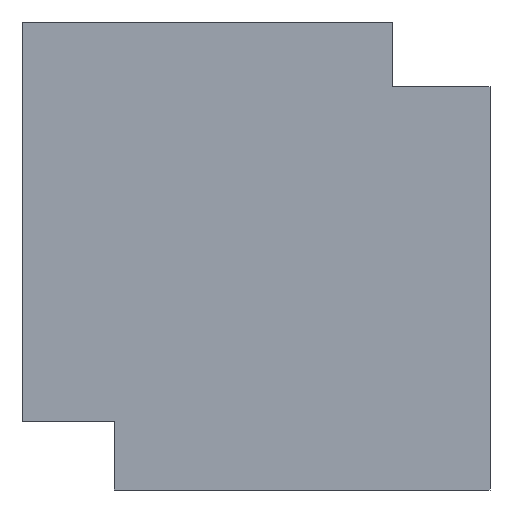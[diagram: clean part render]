
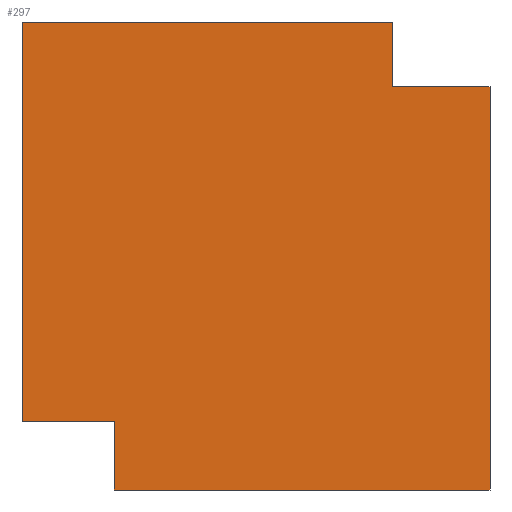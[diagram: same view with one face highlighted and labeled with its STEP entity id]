
A CAD part, front view. The second image highlights one B-rep face of the part: STEP entity #297.
In plain terms, the highlighted planar face has unit normal (0, -1, 0).
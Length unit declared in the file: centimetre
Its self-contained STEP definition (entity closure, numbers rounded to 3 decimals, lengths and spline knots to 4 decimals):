
#8 = DIRECTION ( 'NONE',  ( -1., 0., 0. ) ) ;
#19 = EDGE_CURVE ( 'NONE', #546, #117, #864, .T. ) ;
#20 = EDGE_CURVE ( 'NONE', #865, #655, #575, .T. ) ;
#28 = CARTESIAN_POINT ( 'NONE',  ( 196.6061, 0., 147.1455 ) ) ;
#40 = VERTEX_POINT ( 'NONE', #775 ) ;
#59 = DIRECTION ( 'NONE',  ( 0., 0., -1. ) ) ;
#74 = VERTEX_POINT ( 'NONE', #28 ) ;
#76 = CARTESIAN_POINT ( 'NONE',  ( 0., 0., 1000. ) ) ;
#86 = DIRECTION ( 'NONE',  ( 0., 1., 0. ) ) ;
#94 = VECTOR ( 'NONE', #755, 100. ) ;
#104 = CARTESIAN_POINT ( 'NONE',  ( 0., 0., 0. ) ) ;
#117 = VERTEX_POINT ( 'NONE', #991 ) ;
#134 = DIRECTION ( 'NONE',  ( 1., 0., 0. ) ) ;
#136 = VECTOR ( 'NONE', #852, 100. ) ;
#159 = CARTESIAN_POINT ( 'NONE',  ( 791.5606, 0., 861.3351 ) ) ;
#177 = CARTESIAN_POINT ( 'NONE',  ( 0., 0., 147.1455 ) ) ;
#178 = AXIS2_PLACEMENT_3D ( 'NONE', #76, #86, #1032 ) ;
#205 = VECTOR ( 'NONE', #531, 100. ) ;
#219 = CARTESIAN_POINT ( 'NONE',  ( 0., 0., 1000. ) ) ;
#227 = EDGE_CURVE ( 'NONE', #117, #40, #765, .T. ) ;
#236 = DIRECTION ( 'NONE',  ( 0., 0., -1. ) ) ;
#253 = EDGE_CURVE ( 'NONE', #275, #74, #587, .T. ) ;
#262 = FACE_OUTER_BOUND ( 'NONE', #666, .T. ) ;
#275 = VERTEX_POINT ( 'NONE', #668 ) ;
#297 = ADVANCED_FACE ( 'NONE', ( #262 ), #944, .F. ) ;
#302 = LINE ( 'NONE', #104, #205 ) ;
#307 = VECTOR ( 'NONE', #8, 100. ) ;
#334 = CARTESIAN_POINT ( 'NONE',  ( 196.6061, 0., 0. ) ) ;
#392 = EDGE_CURVE ( 'NONE', #74, #655, #711, .T. ) ;
#405 = CARTESIAN_POINT ( 'NONE',  ( 791.5606, 0., 861.3351 ) ) ;
#418 = DIRECTION ( 'NONE',  ( 1., 0., 0. ) ) ;
#457 = ORIENTED_EDGE ( 'NONE', *, *, #19, .F. ) ;
#481 = ORIENTED_EDGE ( 'NONE', *, *, #253, .F. ) ;
#513 = ORIENTED_EDGE ( 'NONE', *, *, #392, .F. ) ;
#515 = CARTESIAN_POINT ( 'NONE',  ( 1000., 0., 1000. ) ) ;
#518 = ORIENTED_EDGE ( 'NONE', *, *, #908, .F. ) ;
#527 = VECTOR ( 'NONE', #418, 100. ) ;
#531 = DIRECTION ( 'NONE',  ( 1., 0., 0. ) ) ;
#546 = VERTEX_POINT ( 'NONE', #1136 ) ;
#574 = LINE ( 'NONE', #405, #94 ) ;
#575 = LINE ( 'NONE', #941, #827 ) ;
#587 = LINE ( 'NONE', #334, #136 ) ;
#653 = CARTESIAN_POINT ( 'NONE',  ( 0., 0., 1000. ) ) ;
#655 = VERTEX_POINT ( 'NONE', #904 ) ;
#666 = EDGE_LOOP ( 'NONE', ( #729, #513, #481, #1137, #833, #457, #518, #826 ) ) ;
#668 = CARTESIAN_POINT ( 'NONE',  ( 196.6061, 0., 0. ) ) ;
#669 = VECTOR ( 'NONE', #236, 100. ) ;
#694 = EDGE_CURVE ( 'NONE', #275, #40, #302, .T. ) ;
#711 = LINE ( 'NONE', #177, #307 ) ;
#729 = ORIENTED_EDGE ( 'NONE', *, *, #20, .T. ) ;
#755 = DIRECTION ( 'NONE',  ( 0., 0., -1. ) ) ;
#765 = LINE ( 'NONE', #515, #669 ) ;
#775 = CARTESIAN_POINT ( 'NONE',  ( 1000., 0., 0. ) ) ;
#808 = VECTOR ( 'NONE', #134, 100. ) ;
#826 = ORIENTED_EDGE ( 'NONE', *, *, #920, .F. ) ;
#827 = VECTOR ( 'NONE', #59, 100. ) ;
#833 = ORIENTED_EDGE ( 'NONE', *, *, #227, .F. ) ;
#852 = DIRECTION ( 'NONE',  ( 0., 0., 1. ) ) ;
#864 = LINE ( 'NONE', #159, #527 ) ;
#865 = VERTEX_POINT ( 'NONE', #219 ) ;
#904 = CARTESIAN_POINT ( 'NONE',  ( 0., 0., 147.1455 ) ) ;
#906 = LINE ( 'NONE', #653, #808 ) ;
#908 = EDGE_CURVE ( 'NONE', #917, #546, #574, .T. ) ;
#917 = VERTEX_POINT ( 'NONE', #924 ) ;
#920 = EDGE_CURVE ( 'NONE', #865, #917, #906, .T. ) ;
#924 = CARTESIAN_POINT ( 'NONE',  ( 791.5606, 0., 1000. ) ) ;
#941 = CARTESIAN_POINT ( 'NONE',  ( 0., 0., 1000. ) ) ;
#944 = PLANE ( 'NONE',  #178 ) ;
#991 = CARTESIAN_POINT ( 'NONE',  ( 1000., 0., 861.3351 ) ) ;
#1032 = DIRECTION ( 'NONE',  ( 0., 0., 1. ) ) ;
#1136 = CARTESIAN_POINT ( 'NONE',  ( 791.5606, 0., 861.3351 ) ) ;
#1137 = ORIENTED_EDGE ( 'NONE', *, *, #694, .T. ) ;
